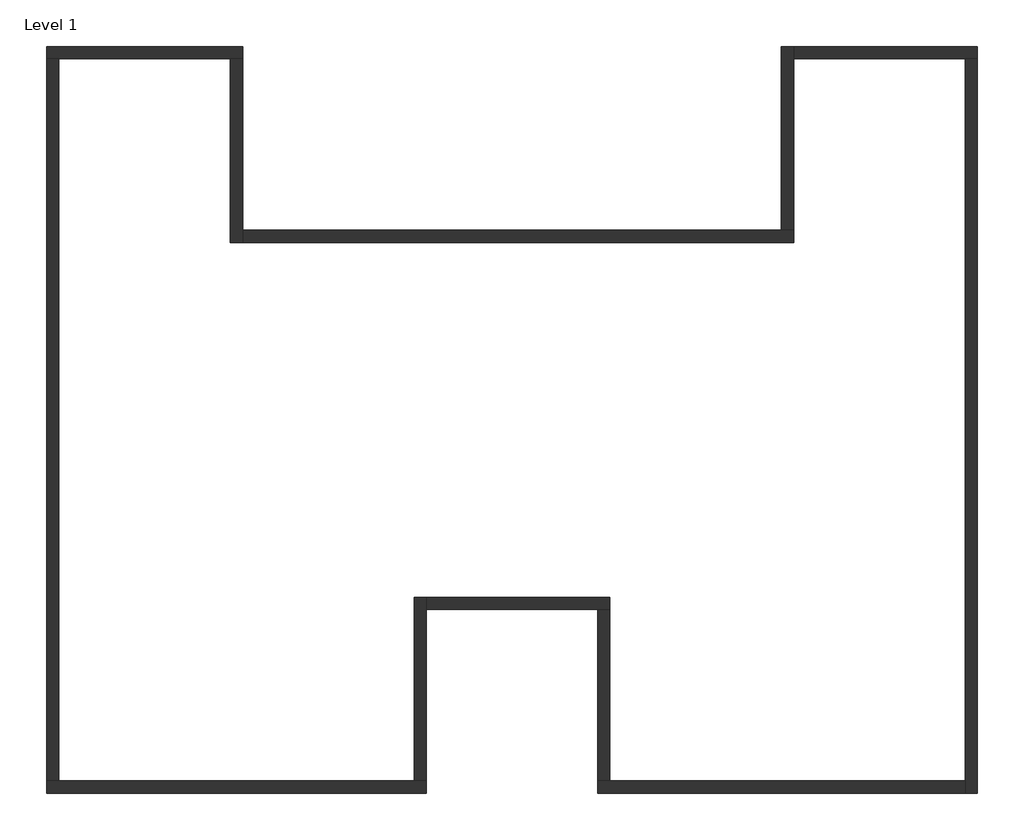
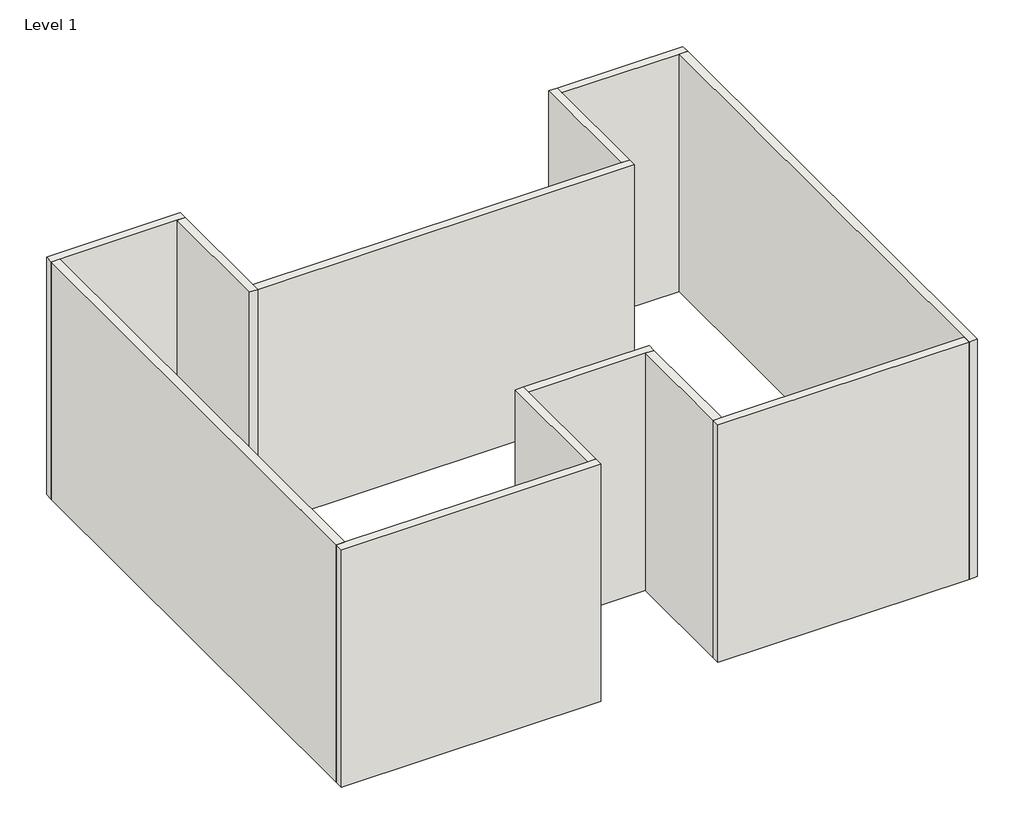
# One storey: 12 walls.
"""IFC4 building model written with IfcOpenShell, lengths in millimetres."""

from ifc_helpers import new_model, si_unit, origin, origin_with_axes, place, context, project, spatial, polyline, outline, extrude, faceted_brep, element, save

model = new_model("IFC4")

# Units and contexts
model_context = context("Model", 3, world=origin())
ifc_project = project(units=[si_unit("LENGTHUNIT", "METRE", prefix="MILLI")], contexts=[model_context])

# Site, building, storey
site = spatial("IfcSite", under=ifc_project)
building = spatial("IfcBuilding", under=site)
storey = spatial("IfcBuildingStorey", under=building, Name="Level 1", Elevation=0.0)

# Walls
placement = place(None, origin())
element("IfcWall", 1, ObjectType="Generic - 8\"", at=placement, inside=storey, context=model_context, shape_type="Brep", body=[
    faceted_brep([(-8161.8019444, 3105.141545, 0.0), (-7958.6019444, 3105.141545, 0.0), (-5113.8019444, 3105.141545, 0.0), (-4910.6019444, 3105.141545, 0.0), (-4910.6019444, 3105.141545, 6096.0), (-5113.8019444, 3105.141545, 6096.0), (-7958.6019444, 3105.141545, 6096.0), (-8161.8019444, 3105.141545, 6096.0), (-8161.8019444, 3308.341545, 0.0), (-8161.8019444, 3308.341545, 6096.0), (-4910.6019444, 3308.341545, 6096.0), (-4910.6019444, 3308.341545, 0.0)], [[[0, 1, 2, 3, 4, 5, 6, 7]], [[8, 9, 10, 11]], [[3, 2, 1, 0, 8, 11]], [[7, 6, 5, 4, 10, 9]], [[4, 3, 11, 10]], [[0, 7, 9, 8]]]),
])
element("IfcWall", 2, ObjectType="Generic - 8\"", at=placement, inside=storey, context=model_context, shape_type="Brep", body=[
    faceted_brep([(-5113.8019444, 3105.141545, 0.0), (-5113.8019444, 57.141545, 0.0), (-5113.8019444, 57.141545, 6096.0), (-5113.8019444, 3105.141545, 6096.0), (-4910.6019444, 3105.141545, 0.0), (-4910.6019444, 3105.141545, 6096.0), (-4910.6019444, 260.341545, 6096.0), (-4910.6019444, 57.141545, 6096.0), (-4910.6019444, 57.141545, 0.0), (-4910.6019444, 260.341545, 0.0)], [[[0, 1, 2, 3]], [[4, 5, 6, 7, 8, 9]], [[1, 0, 4, 9, 8]], [[3, 2, 7, 6, 5]], [[2, 1, 8, 7]], [[0, 3, 5, 4]]]),
])
element("IfcWall", 3, ObjectType="Generic - 8\"", at=placement, inside=storey, context=model_context, shape_type="Brep", body=[
    faceted_brep([(-4910.6019444, 57.141545, 0.0), (4233.3980556, 57.141545, 0.0), (4233.3980556, 57.141545, 6096.0), (-4910.6019444, 57.141545, 6096.0), (-4910.6019444, 260.341545, 0.0), (-4910.6019444, 260.341545, 6096.0), (4030.1980556, 260.341545, 6096.0), (4233.3980556, 260.341545, 6096.0), (4233.3980556, 260.341545, 0.0), (4030.1980556, 260.341545, 0.0)], [[[0, 1, 2, 3]], [[4, 5, 6, 7, 8, 9]], [[1, 0, 4, 9, 8]], [[3, 2, 7, 6, 5]], [[2, 1, 8, 7]], [[0, 3, 5, 4]]]),
])
element("IfcWall", 4, ObjectType="Generic - 8\"", at=placement, inside=storey, context=model_context, shape_type="Brep", body=[
    faceted_brep([(4233.3980556, 260.341545, 0.0), (4233.3980556, 3105.141545, 0.0), (4233.3980556, 3308.341545, 0.0), (4233.3980556, 3308.341545, 6096.0), (4233.3980556, 3105.141545, 6096.0), (4233.3980556, 260.341545, 6096.0), (4030.1980556, 260.341545, 0.0), (4030.1980556, 260.341545, 6096.0), (4030.1980556, 3308.341545, 6096.0), (4030.1980556, 3308.341545, 0.0)], [[[0, 1, 2, 3, 4, 5]], [[6, 7, 8, 9]], [[2, 1, 0, 6, 9]], [[5, 4, 3, 8, 7]], [[3, 2, 9, 8]], [[0, 5, 7, 6]]]),
])
element("IfcWall", 5, ObjectType="Generic - 8\"", at=placement, inside=storey, context=model_context, shape_type="Brep", body=[
    faceted_brep([(4233.3980556, 3105.141545, 0.0), (7078.1980556, 3105.141545, 0.0), (7281.3980556, 3105.141545, 0.0), (7281.3980556, 3105.141545, 6096.0), (7078.1980556, 3105.141545, 6096.0), (4233.3980556, 3105.141545, 6096.0), (4233.3980556, 3308.341545, 0.0), (4233.3980556, 3308.341545, 6096.0), (7281.3980556, 3308.341545, 6096.0), (7281.3980556, 3308.341545, 0.0)], [[[0, 1, 2, 3, 4, 5]], [[6, 7, 8, 9]], [[2, 1, 0, 6, 9]], [[5, 4, 3, 8, 7]], [[3, 2, 9, 8]], [[0, 5, 7, 6]]]),
])
element("IfcWall", 6, ObjectType="Generic - 8\"", at=placement, inside=storey, context=model_context, shape_type="Brep", body=[
    faceted_brep([(7078.1980556, 3105.141545, 0.0), (7078.1980556, -8883.658455, 0.0), (7078.1980556, -9086.858455, 0.0), (7078.1980556, -9086.858455, 6096.0), (7078.1980556, -8883.658455, 6096.0), (7078.1980556, 3105.141545, 6096.0), (7281.3980556, 3105.141545, 0.0), (7281.3980556, 3105.141545, 6096.0), (7281.3980556, -9086.858455, 6096.0), (7281.3980556, -9086.858455, 0.0)], [[[0, 1, 2, 3, 4, 5]], [[6, 7, 8, 9]], [[2, 1, 0, 6, 9]], [[5, 4, 3, 8, 7]], [[3, 2, 9, 8]], [[0, 5, 7, 6]]]),
])
element("IfcWall", 7, ObjectType="Generic - 8\"", at=placement, inside=storey, context=model_context, shape_type="Brep", body=[
    faceted_brep([(7078.1980556, -8883.658455, 0.0), (1185.3980556, -8883.658455, 0.0), (982.1980556, -8883.658455, 0.0), (982.1980556, -8883.658455, 6096.0), (1185.3980556, -8883.658455, 6096.0), (7078.1980556, -8883.658455, 6096.0), (7078.1980556, -9086.858455, 0.0), (7078.1980556, -9086.858455, 6096.0), (982.1980556, -9086.858455, 6096.0), (982.1980556, -9086.858455, 0.0)], [[[0, 1, 2, 3, 4, 5]], [[6, 7, 8, 9]], [[2, 1, 0, 6, 9]], [[5, 4, 3, 8, 7]], [[0, 5, 7, 6]], [[3, 2, 9, 8]]]),
])
element("IfcWall", 8, ObjectType="Generic - 8\"", at=placement, inside=storey, context=model_context, shape_type="SweptSolid", body=[
    extrude(outline(polyline([(-7958.6019444, 3105.141545), (-7958.6019444, -8883.658455), (-8161.8019444, -8883.658455), (-8161.8019444, 3105.141545), (-7958.6019444, 3105.141545)])), origin_with_axes(), (0.0, 0.0, 1.0), 6096.0),
])
element("IfcWall", 9, ObjectType="Generic - 8\"", at=placement, inside=storey, context=model_context, shape_type="Brep", body=[
    faceted_brep([(-1862.6019444, -8883.658455, 0.0), (-1862.6019444, -6038.858455, 0.0), (-1862.6019444, -5835.658455, 0.0), (-1862.6019444, -5835.658455, 6096.0), (-1862.6019444, -6038.858455, 6096.0), (-1862.6019444, -8883.658455, 6096.0), (-2065.8019444, -8883.658455, 0.0), (-2065.8019444, -8883.658455, 6096.0), (-2065.8019444, -5835.658455, 6096.0), (-2065.8019444, -5835.658455, 0.0)], [[[0, 1, 2, 3, 4, 5]], [[6, 7, 8, 9]], [[2, 1, 0, 6, 9]], [[5, 4, 3, 8, 7]], [[3, 2, 9, 8]], [[0, 5, 7, 6]]]),
])
element("IfcWall", 10, ObjectType="Generic - 8\"", at=placement, inside=storey, context=model_context, shape_type="Brep", body=[
    faceted_brep([(-1862.6019444, -6038.858455, 0.0), (982.1980556, -6038.858455, 0.0), (1185.3980556, -6038.858455, 0.0), (1185.3980556, -6038.858455, 6096.0), (982.1980556, -6038.858455, 6096.0), (-1862.6019444, -6038.858455, 6096.0), (-1862.6019444, -5835.658455, 0.0), (-1862.6019444, -5835.658455, 6096.0), (1185.3980556, -5835.658455, 6096.0), (1185.3980556, -5835.658455, 0.0)], [[[0, 1, 2, 3, 4, 5]], [[6, 7, 8, 9]], [[2, 1, 0, 6, 9]], [[5, 4, 3, 8, 7]], [[3, 2, 9, 8]], [[0, 5, 7, 6]]]),
])
element("IfcWall", 11, ObjectType="Generic - 8\"", at=placement, inside=storey, context=model_context, shape_type="SweptSolid", body=[
    extrude(outline(polyline([(982.1980556, -8883.658455), (982.1980556, -6038.858455), (1185.3980556, -6038.858455), (1185.3980556, -8883.658455), (982.1980556, -8883.658455)])), origin_with_axes(), (0.0, 0.0, 1.0), 6096.0),
])
element("IfcWall", 12, ObjectType="Generic - 8\"", at=placement, inside=storey, context=model_context, shape_type="Brep", body=[
    faceted_brep([(-1862.6019444, -8883.658455, 0.0), (-2065.8019444, -8883.658455, 0.0), (-7958.6019444, -8883.658455, 0.0), (-8161.8019444, -8883.658455, 0.0), (-8161.8019444, -8883.658455, 6096.0), (-7958.6019444, -8883.658455, 6096.0), (-2065.8019444, -8883.658455, 6096.0), (-1862.6019444, -8883.658455, 6096.0), (-1862.6019444, -9086.858455, 0.0), (-1862.6019444, -9086.858455, 6096.0), (-8161.8019444, -9086.858455, 6096.0), (-8161.8019444, -9086.858455, 0.0)], [[[0, 1, 2, 3, 4, 5, 6, 7]], [[8, 9, 10, 11]], [[3, 2, 1, 0, 8, 11]], [[7, 6, 5, 4, 10, 9]], [[4, 3, 11, 10]], [[0, 7, 9, 8]]]),
])

save(model, "model.ifc")
